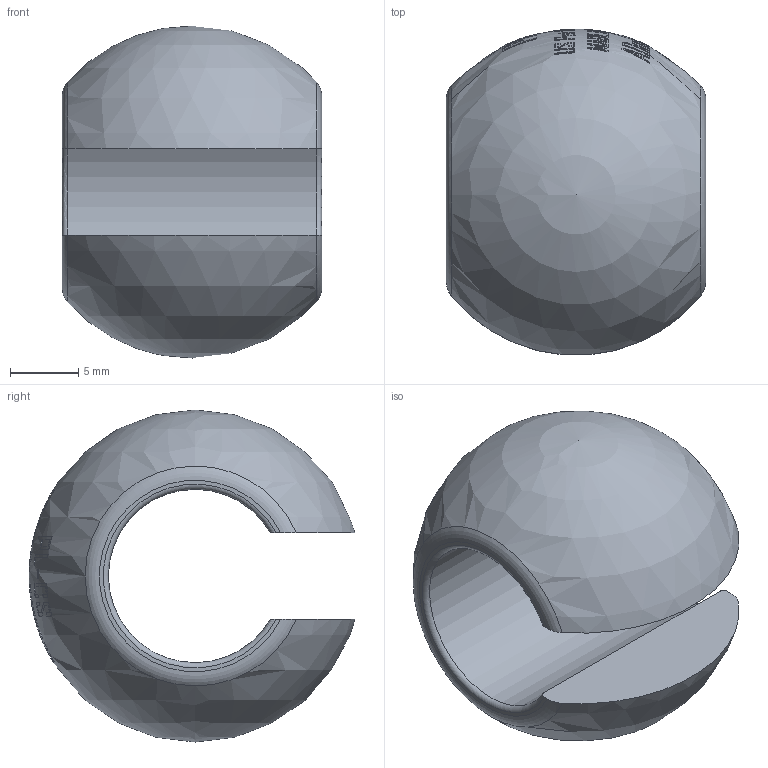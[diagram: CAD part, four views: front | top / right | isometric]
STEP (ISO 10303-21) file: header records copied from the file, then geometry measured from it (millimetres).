
FILE_DESCRIPTION(/* description */ ('PL SERIES CLAM SHELL'),/* implementation_level */ '2;1');
FILE_NAME(/* name */ 'C:\Users\Shayne Riley\Documents\Vault\AD&D\Management\Website\Website STP files\PL-CS.stp',/* time_stamp */ '2020-05-07T13:52:19-04:00',/* author */ ('Shayne Riley'),/* organization */ (''),/* preprocessor_version */ 'ST-DEVELOPER v18.1',/* originating_system */ 'Autodesk Inventor 2021',/* authorisation */ '');
FILE_SCHEMA (('AUTOMOTIVE_DESIGN { 1 0 10303 214 3 1 1 }'));
Length unit declared in the file: inch
Products named in the file (2): PL-CS; 60241
Assembly tree (1 placements, depth 2):
  PL-CS
    60241
Bounding box: 19.05 x 23.91 x 24.37 mm (x, y, z)
Volume: 4098.4 mm3; surface area: 2216 mm2
Topology: 1 solids, 1 shells, 665 faces, 1809 edges, 1206 vertices
Faces by surface type: plane 477, bspline 120, sphere 63, torus 4, cylinder 1
Entity records: 25186 total; most frequent: CARTESIAN_POINT 7534, DIRECTION 3615, ORIENTED_EDGE 3614, EDGE_CURVE 1807, AXIS2_PLACEMENT_3D 1508, VERTEX_POINT 1206, CIRCLE 960, EDGE_LOOP 727
